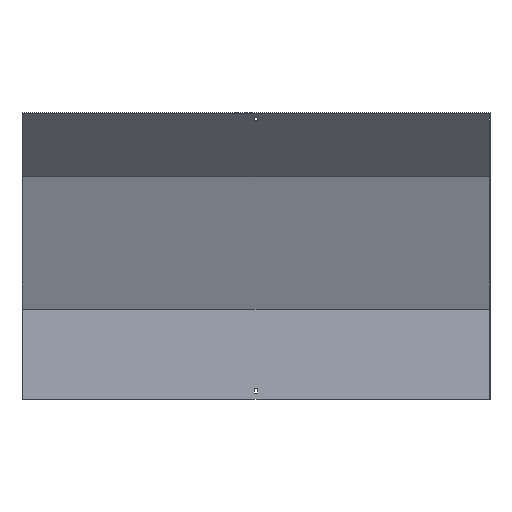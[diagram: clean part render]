
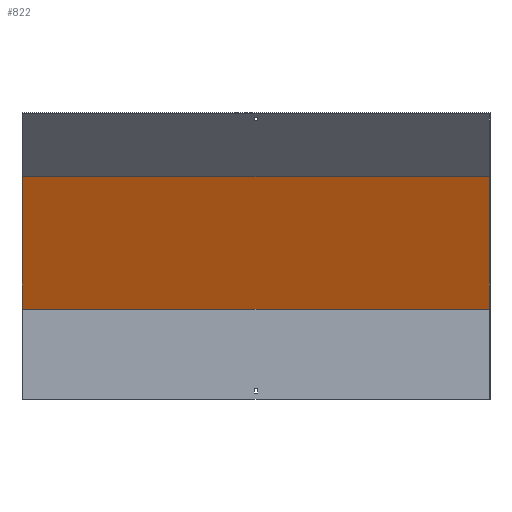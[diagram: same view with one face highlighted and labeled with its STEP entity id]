
A CAD part, front view. The second image highlights one B-rep face of the part: STEP entity #822.
In plain terms, the highlighted planar face has unit normal (0, -0.924, -0.383).
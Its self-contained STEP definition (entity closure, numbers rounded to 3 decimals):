
#43 = ORIENTED_EDGE ( 'NONE', *, *, #647, .T. ) ;
#49 = FACE_OUTER_BOUND ( 'NONE', #104, .T. ) ;
#68 = VERTEX_POINT ( 'NONE', #139 ) ;
#85 = VECTOR ( 'NONE', #482, 1000. ) ;
#102 = VECTOR ( 'NONE', #228, 1000. ) ;
#104 = EDGE_LOOP ( 'NONE', ( #367, #695, #192, #43 ) ) ;
#129 = LINE ( 'NONE', #140, #757 ) ;
#139 = CARTESIAN_POINT ( 'NONE',  ( -450., 18.5, 173.68 ) ) ;
#140 = CARTESIAN_POINT ( 'NONE',  ( 451.5, 18.5, 173.68 ) ) ;
#178 = CARTESIAN_POINT ( 'NONE',  ( 451.5, 17.092, 177.08 ) ) ;
#192 = ORIENTED_EDGE ( 'NONE', *, *, #277, .T. ) ;
#209 = VECTOR ( 'NONE', #577, 1000. ) ;
#228 = DIRECTION ( 'NONE',  ( -1., 0., 0. ) ) ;
#242 = PLANE ( 'NONE',  #710 ) ;
#277 = EDGE_CURVE ( 'NONE', #514, #529, #550, .T. ) ;
#307 = DIRECTION ( 'NONE',  ( 0., 0.383, -0.924 ) ) ;
#324 = CARTESIAN_POINT ( 'NONE',  ( 450., 18.5, 173.68 ) ) ;
#328 = CARTESIAN_POINT ( 'NONE',  ( -450., 77.196, 31.976 ) ) ;
#367 = ORIENTED_EDGE ( 'NONE', *, *, #576, .F. ) ;
#402 = DIRECTION ( 'NONE',  ( -1., 0., 0. ) ) ;
#450 = CARTESIAN_POINT ( 'NONE',  ( 450., -87.258, 429.003 ) ) ;
#454 = LINE ( 'NONE', #727, #102 ) ;
#460 = EDGE_CURVE ( 'NONE', #514, #68, #129, .T. ) ;
#482 = DIRECTION ( 'NONE',  ( 0., -0.383, 0.924 ) ) ;
#514 = VERTEX_POINT ( 'NONE', #324 ) ;
#529 = VERTEX_POINT ( 'NONE', #450 ) ;
#550 = LINE ( 'NONE', #830, #85 ) ;
#576 = EDGE_CURVE ( 'NONE', #68, #622, #721, .T. ) ;
#577 = DIRECTION ( 'NONE',  ( 0., -0.383, 0.924 ) ) ;
#622 = VERTEX_POINT ( 'NONE', #794 ) ;
#647 = EDGE_CURVE ( 'NONE', #529, #622, #454, .T. ) ;
#695 = ORIENTED_EDGE ( 'NONE', *, *, #460, .F. ) ;
#702 = DIRECTION ( 'NONE',  ( 0., -0.924, -0.383 ) ) ;
#710 = AXIS2_PLACEMENT_3D ( 'NONE', #178, #702, #307 ) ;
#721 = LINE ( 'NONE', #328, #209 ) ;
#727 = CARTESIAN_POINT ( 'NONE',  ( 451.5, -87.258, 429.003 ) ) ;
#757 = VECTOR ( 'NONE', #402, 1000. ) ;
#794 = CARTESIAN_POINT ( 'NONE',  ( -450., -87.258, 429.003 ) ) ;
#822 = ADVANCED_FACE ( 'NONE', ( #49 ), #242, .T. ) ;
#830 = CARTESIAN_POINT ( 'NONE',  ( 450., 77.196, 31.976 ) ) ;
